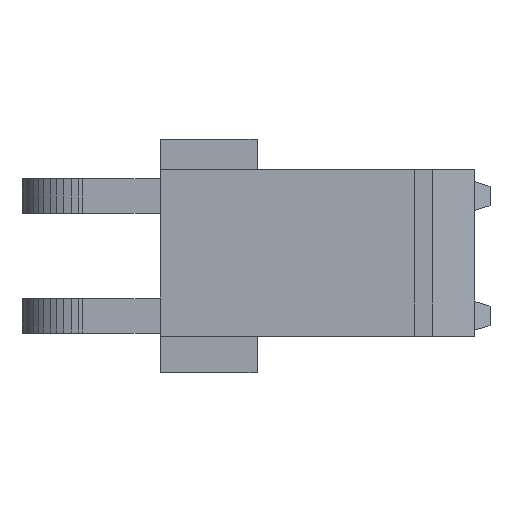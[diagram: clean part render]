
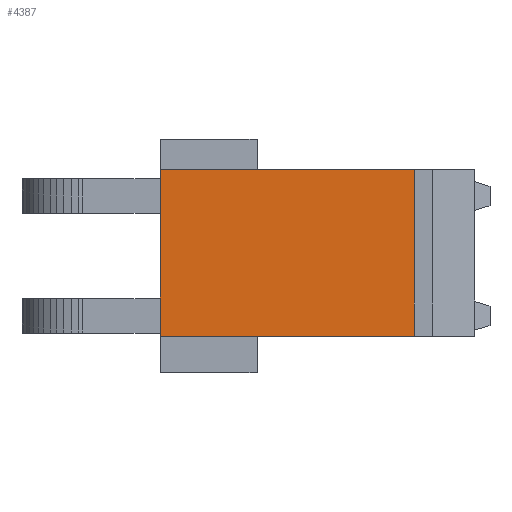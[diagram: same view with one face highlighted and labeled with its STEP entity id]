
A CAD part, top view. The second image highlights one B-rep face of the part: STEP entity #4387.
In plain terms, the highlighted planar face has unit normal (0, 0, 1).
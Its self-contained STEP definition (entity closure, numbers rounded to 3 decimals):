
#3296 = PLANE('',#3297);
#3297 = AXIS2_PLACEMENT_3D('',#3298,#3299,#3300);
#3298 = CARTESIAN_POINT('',(4.,-0.68,8.));
#3299 = DIRECTION('',(1.,0.,0.));
#3300 = DIRECTION('',(0.,0.,-1.));
#3514 = PLANE('',#3515);
#3515 = AXIS2_PLACEMENT_3D('',#3516,#3517,#3518);
#3516 = CARTESIAN_POINT('',(4.,-0.68,8.));
#3517 = DIRECTION('',(0.,1.,0.));
#3518 = DIRECTION('',(1.,0.,0.));
#3578 = EDGE_CURVE('',#3579,#3581,#3583,.T.);
#3579 = VERTEX_POINT('',#3580);
#3580 = CARTESIAN_POINT('',(4.,-0.68,8.));
#3581 = VERTEX_POINT('',#3582);
#3582 = CARTESIAN_POINT('',(4.,4.84,8.));
#3583 = SURFACE_CURVE('',#3584,(#3588,#3595),.PCURVE_S1.);
#3584 = LINE('',#3585,#3586);
#3585 = CARTESIAN_POINT('',(4.,-0.68,8.));
#3586 = VECTOR('',#3587,1.);
#3587 = DIRECTION('',(0.,1.,0.));
#3588 = PCURVE('',#3296,#3589);
#3589 = DEFINITIONAL_REPRESENTATION('',(#3590),#3594);
#3590 = LINE('',#3591,#3592);
#3591 = CARTESIAN_POINT('',(0.,0.));
#3592 = VECTOR('',#3593,1.);
#3593 = DIRECTION('',(0.,1.));
#3594 = ( GEOMETRIC_REPRESENTATION_CONTEXT(2) 
PARAMETRIC_REPRESENTATION_CONTEXT() REPRESENTATION_CONTEXT('2D SPACE',''
  ) );
#3595 = PCURVE('',#3596,#3601);
#3596 = PLANE('',#3597);
#3597 = AXIS2_PLACEMENT_3D('',#3598,#3599,#3600);
#3598 = CARTESIAN_POINT('',(4.,-0.68,8.));
#3599 = DIRECTION('',(0.,0.,-1.));
#3600 = DIRECTION('',(1.,0.,0.));
#3601 = DEFINITIONAL_REPRESENTATION('',(#3602),#3606);
#3602 = LINE('',#3603,#3604);
#3603 = CARTESIAN_POINT('',(0.,0.));
#3604 = VECTOR('',#3605,1.);
#3605 = DIRECTION('',(0.,-1.));
#3606 = ( GEOMETRIC_REPRESENTATION_CONTEXT(2) 
PARAMETRIC_REPRESENTATION_CONTEXT() REPRESENTATION_CONTEXT('2D SPACE',''
  ) );
#3644 = PLANE('',#3645);
#3645 = AXIS2_PLACEMENT_3D('',#3646,#3647,#3648);
#3646 = CARTESIAN_POINT('',(4.,4.84,8.));
#3647 = DIRECTION('',(0.,1.,0.));
#3648 = DIRECTION('',(1.,0.,0.));
#4315 = EDGE_CURVE('',#3579,#4316,#4318,.T.);
#4316 = VERTEX_POINT('',#4317);
#4317 = CARTESIAN_POINT('',(12.4,-0.68,8.));
#4318 = SURFACE_CURVE('',#4319,(#4323,#4330),.PCURVE_S1.);
#4319 = LINE('',#4320,#4321);
#4320 = CARTESIAN_POINT('',(4.,-0.68,8.));
#4321 = VECTOR('',#4322,1.);
#4322 = DIRECTION('',(1.,0.,0.));
#4323 = PCURVE('',#3514,#4324);
#4324 = DEFINITIONAL_REPRESENTATION('',(#4325),#4329);
#4325 = LINE('',#4326,#4327);
#4326 = CARTESIAN_POINT('',(0.,0.));
#4327 = VECTOR('',#4328,1.);
#4328 = DIRECTION('',(1.,0.));
#4329 = ( GEOMETRIC_REPRESENTATION_CONTEXT(2) 
PARAMETRIC_REPRESENTATION_CONTEXT() REPRESENTATION_CONTEXT('2D SPACE',''
  ) );
#4330 = PCURVE('',#3596,#4331);
#4331 = DEFINITIONAL_REPRESENTATION('',(#4332),#4336);
#4332 = LINE('',#4333,#4334);
#4333 = CARTESIAN_POINT('',(0.,0.));
#4334 = VECTOR('',#4335,1.);
#4335 = DIRECTION('',(1.,0.));
#4336 = ( GEOMETRIC_REPRESENTATION_CONTEXT(2) 
PARAMETRIC_REPRESENTATION_CONTEXT() REPRESENTATION_CONTEXT('2D SPACE',''
  ) );
#4387 = ADVANCED_FACE('',(#4388),#3596,.F.);
#4388 = FACE_BOUND('',#4389,.F.);
#4389 = EDGE_LOOP('',(#4390,#4391,#4392,#4415));
#4390 = ORIENTED_EDGE('',*,*,#4315,.F.);
#4391 = ORIENTED_EDGE('',*,*,#3578,.T.);
#4392 = ORIENTED_EDGE('',*,*,#4393,.T.);
#4393 = EDGE_CURVE('',#3581,#4394,#4396,.T.);
#4394 = VERTEX_POINT('',#4395);
#4395 = CARTESIAN_POINT('',(12.4,4.84,8.));
#4396 = SURFACE_CURVE('',#4397,(#4401,#4408),.PCURVE_S1.);
#4397 = LINE('',#4398,#4399);
#4398 = CARTESIAN_POINT('',(4.,4.84,8.));
#4399 = VECTOR('',#4400,1.);
#4400 = DIRECTION('',(1.,0.,0.));
#4401 = PCURVE('',#3596,#4402);
#4402 = DEFINITIONAL_REPRESENTATION('',(#4403),#4407);
#4403 = LINE('',#4404,#4405);
#4404 = CARTESIAN_POINT('',(0.,-5.52));
#4405 = VECTOR('',#4406,1.);
#4406 = DIRECTION('',(1.,0.));
#4407 = ( GEOMETRIC_REPRESENTATION_CONTEXT(2) 
PARAMETRIC_REPRESENTATION_CONTEXT() REPRESENTATION_CONTEXT('2D SPACE',''
  ) );
#4408 = PCURVE('',#3644,#4409);
#4409 = DEFINITIONAL_REPRESENTATION('',(#4410),#4414);
#4410 = LINE('',#4411,#4412);
#4411 = CARTESIAN_POINT('',(0.,0.));
#4412 = VECTOR('',#4413,1.);
#4413 = DIRECTION('',(1.,0.));
#4414 = ( GEOMETRIC_REPRESENTATION_CONTEXT(2) 
PARAMETRIC_REPRESENTATION_CONTEXT() REPRESENTATION_CONTEXT('2D SPACE',''
  ) );
#4415 = ORIENTED_EDGE('',*,*,#4416,.F.);
#4416 = EDGE_CURVE('',#4316,#4394,#4417,.T.);
#4417 = SURFACE_CURVE('',#4418,(#4422,#4429),.PCURVE_S1.);
#4418 = LINE('',#4419,#4420);
#4419 = CARTESIAN_POINT('',(12.4,-0.68,8.));
#4420 = VECTOR('',#4421,1.);
#4421 = DIRECTION('',(0.,1.,0.));
#4422 = PCURVE('',#3596,#4423);
#4423 = DEFINITIONAL_REPRESENTATION('',(#4424),#4428);
#4424 = LINE('',#4425,#4426);
#4425 = CARTESIAN_POINT('',(8.4,0.));
#4426 = VECTOR('',#4427,1.);
#4427 = DIRECTION('',(0.,-1.));
#4428 = ( GEOMETRIC_REPRESENTATION_CONTEXT(2) 
PARAMETRIC_REPRESENTATION_CONTEXT() REPRESENTATION_CONTEXT('2D SPACE',''
  ) );
#4429 = PCURVE('',#4430,#4435);
#4430 = PLANE('',#4431);
#4431 = AXIS2_PLACEMENT_3D('',#4432,#4433,#4434);
#4432 = CARTESIAN_POINT('',(12.4,-0.68,8.6));
#4433 = DIRECTION('',(1.,0.,0.));
#4434 = DIRECTION('',(0.,0.,-1.));
#4435 = DEFINITIONAL_REPRESENTATION('',(#4436),#4440);
#4436 = LINE('',#4437,#4438);
#4437 = CARTESIAN_POINT('',(0.6,0.));
#4438 = VECTOR('',#4439,1.);
#4439 = DIRECTION('',(0.,1.));
#4440 = ( GEOMETRIC_REPRESENTATION_CONTEXT(2) 
PARAMETRIC_REPRESENTATION_CONTEXT() REPRESENTATION_CONTEXT('2D SPACE',''
  ) );
